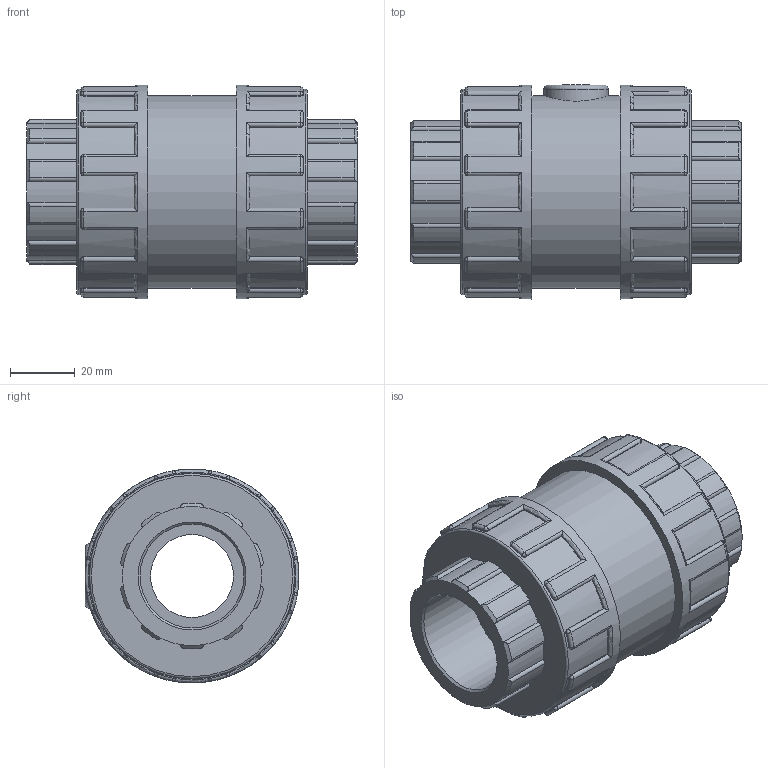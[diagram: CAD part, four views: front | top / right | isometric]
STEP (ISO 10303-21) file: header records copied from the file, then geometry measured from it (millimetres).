
FILE_DESCRIPTION(/* description */ ('PLASSON FOOT VALVE CEM PVC 32'),/* implementation_level */ '2;1');
FILE_NAME(/* name */ 'C:\Dropbox\KIMPROJECTS-Inventor\99-16-3568-Processing\PVC Catalog 2017\116400 - 116000\116400032.ipt.stp',/* time_stamp */ '2017-12-07T16:14:06+02:00',/* author */ ('KIM'),/* organization */ (''),/* preprocessor_version */ 'ST-DEVELOPER v15.6',/* originating_system */ 'Autodesk Inventor 2015',/* authorisation */ '');
FILE_SCHEMA (('AUTOMOTIVE_DESIGN { 1 0 10303 214 3 1 1 }'));
Length unit declared in the file: millimetre
Products named in the file (1): 116400032
Bounding box: 102 x 66 x 66 mm (x, y, z)
Volume: 201905.6 mm3; surface area: 35288.1 mm2
Topology: 1 solids, 1 shells, 411 faces, 1021 edges, 618 vertices
Faces by surface type: cylinder 185, plane 105, torus 51, sphere 48, cone 22
Full cylindrical faces by diameter (mm): 19.8 x1, 25.6 x1, 32 x2, 59.4 x1, 63.36 x2, 66 x2
Entity records: 13378 total; most frequent: CARTESIAN_POINT 3599, DIRECTION 2180, ORIENTED_EDGE 1998, EDGE_CURVE 999, AXIS2_PLACEMENT_3D 906, VERTEX_POINT 611, CIRCLE 494, EDGE_LOOP 434
